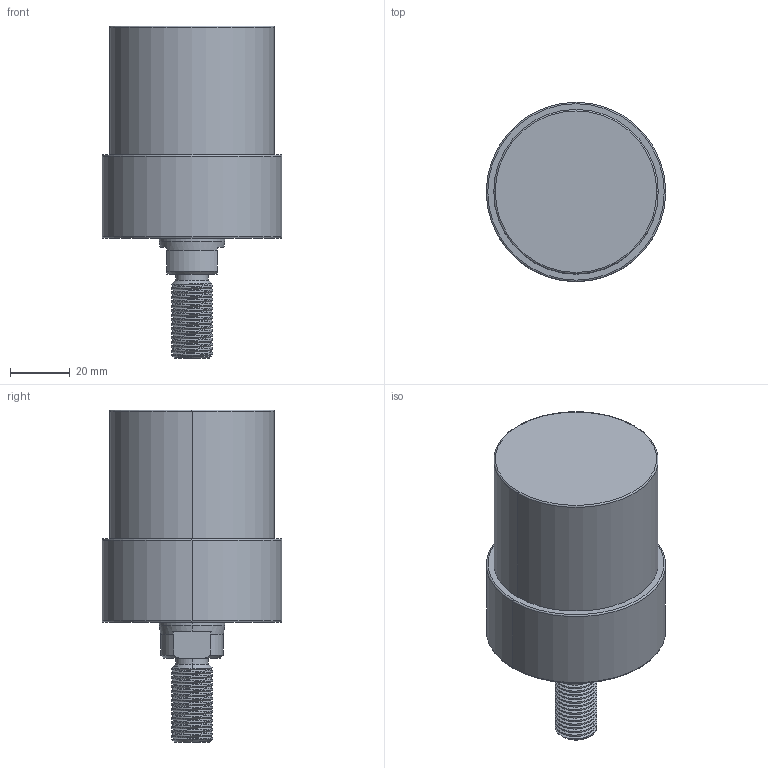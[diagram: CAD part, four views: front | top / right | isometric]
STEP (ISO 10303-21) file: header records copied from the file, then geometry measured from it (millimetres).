
FILE_DESCRIPTION (( 'STEP AP203' ), '1' );
FILE_NAME ('CLLU055-CT-030.STEP', '2017-05-12T11:43:03', ( '' ), ( '' ), 'SwSTEP 2.0', 'SolidWorks 2015', '' );
FILE_SCHEMA (( 'CONFIG_CONTROL_DESIGN' ));
Length unit declared in the file: millimetre
Products named in the file (1): CLLU055-CT-030
Bounding box: 60 x 60 x 111 mm (x, y, z)
Volume: 187529.9 mm3; surface area: 21977.3 mm2
Topology: 1 solids, 1 shells, 98 faces, 246 edges, 151 vertices
Faces by surface type: cylinder 55, cone 24, plane 11, torus 6, bspline 2
Entity records: 4770 total; most frequent: CARTESIAN_POINT 2564, ORIENTED_EDGE 476, DIRECTION 426, EDGE_CURVE 238, AXIS2_PLACEMENT_3D 172, VERTEX_POINT 151, EDGE_LOOP 107, FACE_OUTER_BOUND 98
